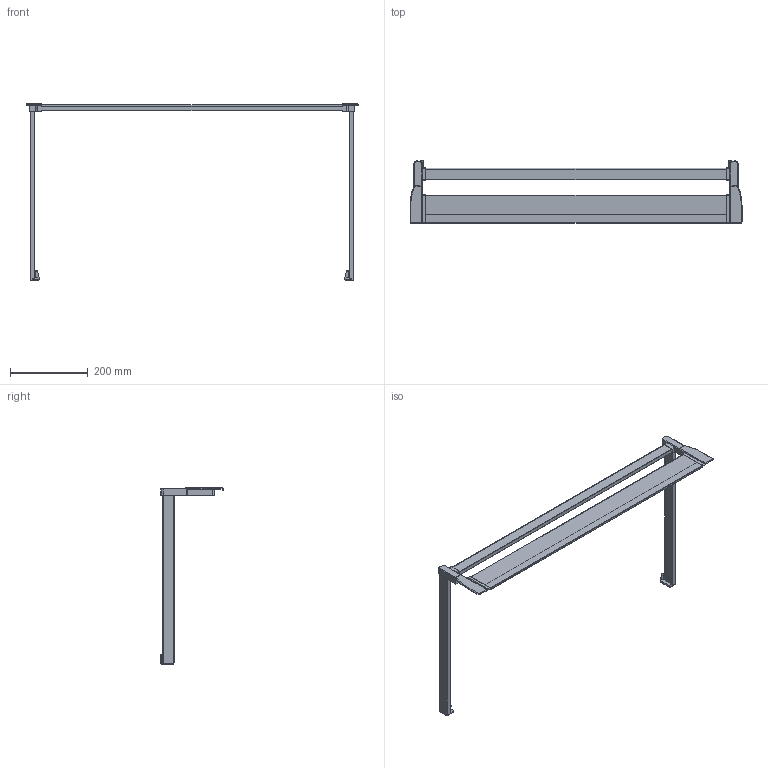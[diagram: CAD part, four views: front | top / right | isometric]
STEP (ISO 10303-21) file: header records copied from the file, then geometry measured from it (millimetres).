
FILE_DESCRIPTION (( 'STEP AP214' ), '1' );
FILE_NAME ('1_P620_NL 450_KAB 900_19er KS_.step', '2009-09-16T06:29:36', ( 'Waldinger Reinhard' ), ( 'Grass GmbH' ), 'SwSTEP 2.0', 'SolidWorks 2009', '' );
FILE_SCHEMA (( 'AUTOMOTIVE_DESIGN' ));
Length unit declared in the file: millimetre
Products named in the file (1): 1_P620_NL 450_KAB 900_19er KS_
Bounding box: 853.6 x 160.5 x 452.8 mm (x, y, z)
Volume: 1297065.1 mm3; surface area: 302957.3 mm2
Topology: 1 solids, 1 shells, 218 faces, 576 edges, 364 vertices
Faces by surface type: plane 97, cylinder 89, torus 28, sphere 2, bspline 2
Entity records: 6974 total; most frequent: CARTESIAN_POINT 1341, DIRECTION 1192, ORIENTED_EDGE 1148, EDGE_CURVE 574, AXIS2_PLACEMENT_3D 431, VERTEX_POINT 364, VECTOR 330, LINE 330
